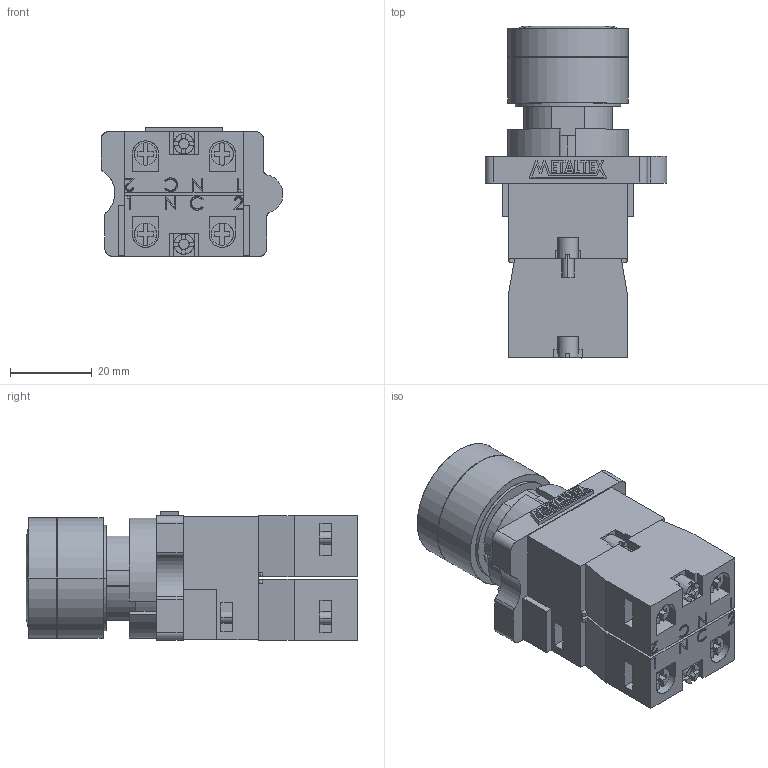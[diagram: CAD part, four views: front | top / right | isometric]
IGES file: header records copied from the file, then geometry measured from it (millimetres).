
Start section: SolidWorks IGES file using analytic representation for surfaces
Global section: file name: D:\X - Arquivos\PROEX\Empresas\P11 - METALTEX\01 - Produtos\IGES\Segunda remessa\P20IGR-G-1C.IGS; native system: SolidWorks 2012; preprocessor: SolidWorks 2012; author: Usuario; date: 180117.115909; units: millimetre
Bounding box: 44.44 x 81.07 x 31.5 mm (x, y, z)
Surface area: 22739.3 mm2 (no closed solid volume)
Topology: 0 solids, 0 shells, 671 faces, 7372 edges, 7370 vertices
Faces by surface type: bspline 528, revolution 143
